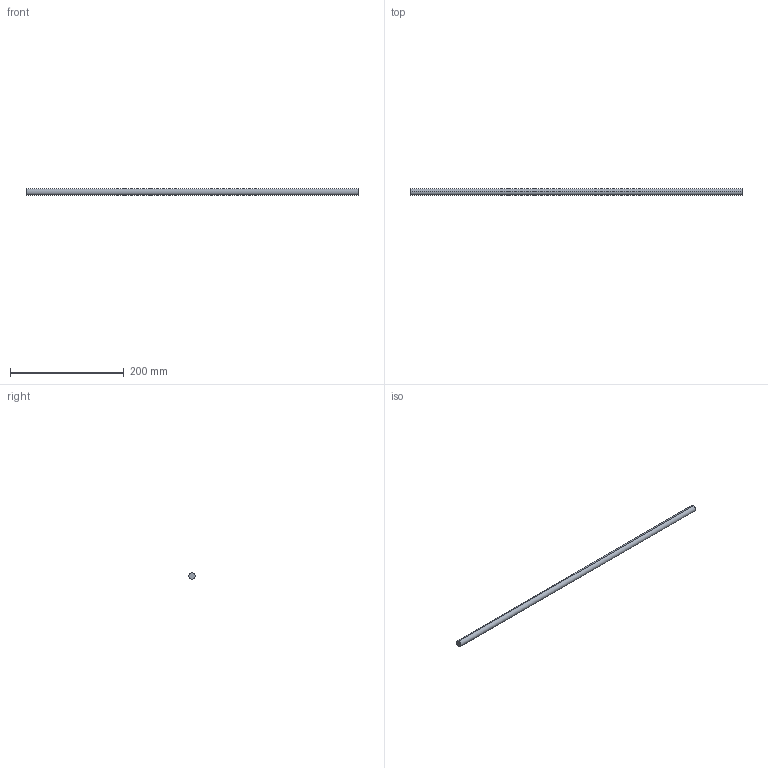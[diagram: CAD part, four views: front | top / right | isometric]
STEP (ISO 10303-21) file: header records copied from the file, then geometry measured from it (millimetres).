
FILE_DESCRIPTION (( 'STEP AP214' ), '1' );
FILE_NAME ('Querreling_Frontblende_Innenlade_KS-19_25mm-Halter_KAB-700.step', '2010-09-22T15:05:46', ( 'grass' ), ( '' ), 'SwSTEP 2.0', 'SolidWorks 2010', '' );
FILE_SCHEMA (( 'AUTOMOTIVE_DESIGN' ));
Length unit declared in the file: millimetre
Products named in the file (1): Querreling_Frontblende_Innenlade_KS-19_25mm-Halter_KAB-700
Bounding box: 584 x 11 x 11 mm (x, y, z)
Volume: 55499.4 mm3; surface area: 20371.7 mm2
Topology: 1 solids, 1 shells, 4 faces, 6 edges, 4 vertices
Faces by surface type: cylinder 2, plane 2
Entity records: 128 total; most frequent: DIRECTION 20, CARTESIAN_POINT 15, ORIENTED_EDGE 12, AXIS2_PLACEMENT_3D 9, EDGE_CURVE 6, VERTEX_POINT 4, EDGE_LOOP 4, FACE_OUTER_BOUND 4
